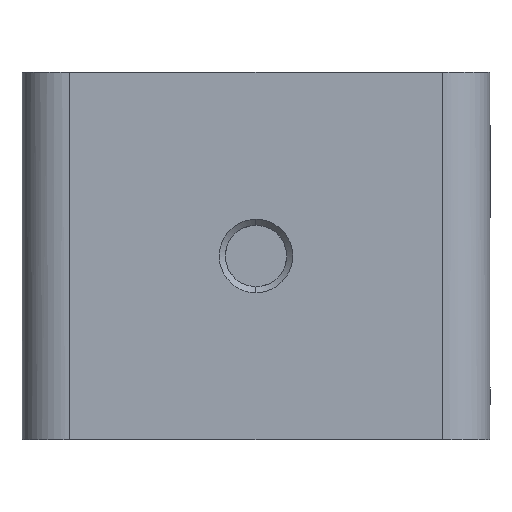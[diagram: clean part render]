
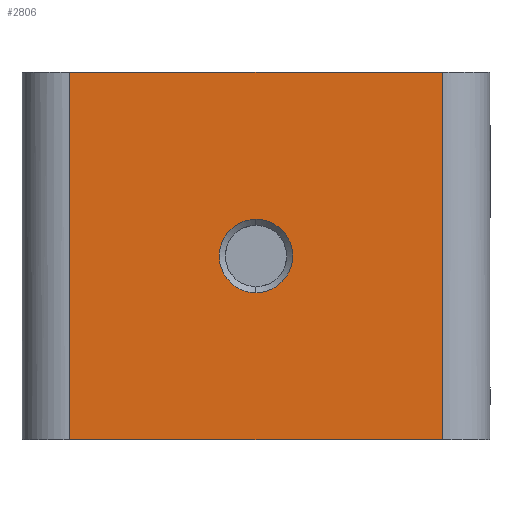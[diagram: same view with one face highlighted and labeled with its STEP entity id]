
A CAD part, front view. The second image highlights one B-rep face of the part: STEP entity #2806.
In plain terms, the highlighted free-form (B-spline) face has degree [1, 1] with [2, 2] control points.
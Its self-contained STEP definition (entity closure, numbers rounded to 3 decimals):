
#83 = B_SPLINE_CURVE_WITH_KNOTS ( 'NONE', 1,
 ( #2261, #492 ),
 .UNSPECIFIED., .F., .F.,
 ( 2, 2 ),
 ( 0., 1. ),
 .UNSPECIFIED. ) ;
#147 = B_SPLINE_CURVE_WITH_KNOTS ( 'NONE', 1,
 ( #3190, #265 ),
 .UNSPECIFIED., .F., .F.,
 ( 2, 2 ),
 ( 0., 1. ),
 .UNSPECIFIED. ) ;
#265 = CARTESIAN_POINT ( 'NONE',  ( -11.929, -42.391, 79.3 ) ) ;
#342 = CARTESIAN_POINT ( 'NONE',  ( 6.271, -42.391, 62.543 ) ) ;
#400 = CARTESIAN_POINT ( 'NONE',  ( 3.271, -42.391, 61.3 ) ) ;
#492 = CARTESIAN_POINT ( 'NONE',  ( 18.471, -42.391, 79.3 ) ) ;
#532 = ORIENTED_EDGE ( 'NONE', *, *, #4483, .T. ) ;
#576 = ORIENTED_EDGE ( 'NONE', *, *, #1020, .T. ) ;
#594 = EDGE_LOOP ( 'NONE', ( #1114, #532, #576, #986 ) ) ;
#647 = EDGE_CURVE ( 'NONE', #5352, #1876, #1031, .T. ) ;
#786 = CARTESIAN_POINT ( 'NONE',  ( -11.929, -42.391, 79.3 ) ) ;
#850 = CARTESIAN_POINT ( 'NONE',  ( 3.271, -42.391, 67.3 ) ) ;
#986 = ORIENTED_EDGE ( 'NONE', *, *, #4319, .T. ) ;
#1020 = EDGE_CURVE ( 'NONE', #5195, #2617, #147, .T. ) ;
#1028 = ORIENTED_EDGE ( 'NONE', *, *, #3436, .F. ) ;
#1031 = B_SPLINE_CURVE_WITH_KNOTS ( 'NONE', 1,
 ( #5518, #3326 ),
 .UNSPECIFIED., .F., .F.,
 ( 2, 2 ),
 ( 0., 1. ),
 .UNSPECIFIED. ) ;
#1114 = ORIENTED_EDGE ( 'NONE', *, *, #647, .T. ) ;
#1139 = EDGE_LOOP ( 'NONE', ( #1028, #2808 ) ) ;
#1230 = CARTESIAN_POINT ( 'NONE',  ( 3.271, -42.391, 61.3 ) ) ;
#1273 = FACE_OUTER_BOUND ( 'NONE', #594, .T. ) ;
#1385 =( BOUNDED_CURVE ( )  B_SPLINE_CURVE ( 3, ( #4155, #4539, #342, #3710, #3750, #2877, #3316 ),
 .UNSPECIFIED., .F., .T. ) 
 B_SPLINE_CURVE_WITH_KNOTS ( ( 4, 3, 4 ),
 ( -3.142, -1.571, 0. ),
 .UNSPECIFIED. ) 
 CURVE ( )  GEOMETRIC_REPRESENTATION_ITEM ( )  RATIONAL_B_SPLINE_CURVE ( ( 1., 0.805, 0.805, 1., 0.805, 0.805, 1. ) ) 
 REPRESENTATION_ITEM ( '' )  );
#1582 = B_SPLINE_CURVE_WITH_KNOTS ( 'NONE', 1,
 ( #2940, #3756 ),
 .UNSPECIFIED., .F., .F.,
 ( 2, 2 ),
 ( 0., 1. ),
 .UNSPECIFIED. ) ;
#1829 = CARTESIAN_POINT ( 'NONE',  ( 3.271, -42.391, 67.3 ) ) ;
#1876 = VERTEX_POINT ( 'NONE', #3785 ) ;
#2165 = VERTEX_POINT ( 'NONE', #400 ) ;
#2261 = CARTESIAN_POINT ( 'NONE',  ( 18.471, -42.391, 49.3 ) ) ;
#2350 = VERTEX_POINT ( 'NONE', #1829 ) ;
#2617 = VERTEX_POINT ( 'NONE', #3967 ) ;
#2806 = ADVANCED_FACE ( 'NONE', ( #5430, #1273 ), #5330, .F. ) ;
#2808 = ORIENTED_EDGE ( 'NONE', *, *, #4366, .F. ) ;
#2877 = CARTESIAN_POINT ( 'NONE',  ( 5.029, -42.391, 67.3 ) ) ;
#2940 = CARTESIAN_POINT ( 'NONE',  ( -11.929, -42.391, 79.3 ) ) ;
#3004 = CARTESIAN_POINT ( 'NONE',  ( -2.729, -42.391, 61.3 ) ) ;
#3190 = CARTESIAN_POINT ( 'NONE',  ( 18.471, -42.391, 79.3 ) ) ;
#3316 = CARTESIAN_POINT ( 'NONE',  ( 3.271, -42.391, 67.3 ) ) ;
#3326 = CARTESIAN_POINT ( 'NONE',  ( 18.471, -42.391, 49.3 ) ) ;
#3339 =( BOUNDED_CURVE ( )  B_SPLINE_CURVE ( 3, ( #850, #4663, #3004, #1230 ),
 .UNSPECIFIED., .F., .T. ) 
 B_SPLINE_CURVE_WITH_KNOTS ( ( 4, 4 ),
 ( -3.142, 0. ),
 .UNSPECIFIED. ) 
 CURVE ( )  GEOMETRIC_REPRESENTATION_ITEM ( )  RATIONAL_B_SPLINE_CURVE ( ( 1., 0.333, 0.333, 1. ) ) 
 REPRESENTATION_ITEM ( '' )  );
#3436 = EDGE_CURVE ( 'NONE', #2165, #2350, #1385, .T. ) ;
#3482 = CARTESIAN_POINT ( 'NONE',  ( -11.929, -42.391, 49.3 ) ) ;
#3710 = CARTESIAN_POINT ( 'NONE',  ( 6.271, -42.391, 64.3 ) ) ;
#3731 = CARTESIAN_POINT ( 'NONE',  ( 18.471, -42.391, 79.3 ) ) ;
#3750 = CARTESIAN_POINT ( 'NONE',  ( 6.271, -42.391, 66.057 ) ) ;
#3756 = CARTESIAN_POINT ( 'NONE',  ( -11.929, -42.391, 49.3 ) ) ;
#3785 = CARTESIAN_POINT ( 'NONE',  ( 18.471, -42.391, 49.3 ) ) ;
#3967 = CARTESIAN_POINT ( 'NONE',  ( -11.929, -42.391, 79.3 ) ) ;
#4140 = CARTESIAN_POINT ( 'NONE',  ( -11.929, -42.391, 49.3 ) ) ;
#4155 = CARTESIAN_POINT ( 'NONE',  ( 3.271, -42.391, 61.3 ) ) ;
#4319 = EDGE_CURVE ( 'NONE', #2617, #5352, #1582, .T. ) ;
#4366 = EDGE_CURVE ( 'NONE', #2350, #2165, #3339, .T. ) ;
#4483 = EDGE_CURVE ( 'NONE', #1876, #5195, #83, .T. ) ;
#4539 = CARTESIAN_POINT ( 'NONE',  ( 5.029, -42.391, 61.3 ) ) ;
#4663 = CARTESIAN_POINT ( 'NONE',  ( -2.729, -42.391, 67.3 ) ) ;
#4984 = CARTESIAN_POINT ( 'NONE',  ( 18.471, -42.391, 49.3 ) ) ;
#4994 = CARTESIAN_POINT ( 'NONE',  ( 18.471, -42.391, 79.3 ) ) ;
#5195 = VERTEX_POINT ( 'NONE', #4994 ) ;
#5330 = B_SPLINE_SURFACE_WITH_KNOTS ( 'NONE', 1, 1, ( 
 ( #4140, #4984 ),
 ( #786, #3731 ) ),
 .UNSPECIFIED., .F., .F., .F.,
 ( 2, 2 ),
 ( 2, 2 ),
 ( 0., 1. ),
 ( 0., 1. ),
 .UNSPECIFIED. ) ;
#5352 = VERTEX_POINT ( 'NONE', #3482 ) ;
#5430 = FACE_BOUND ( 'NONE', #1139, .T. ) ;
#5518 = CARTESIAN_POINT ( 'NONE',  ( -11.929, -42.391, 49.3 ) ) ;
